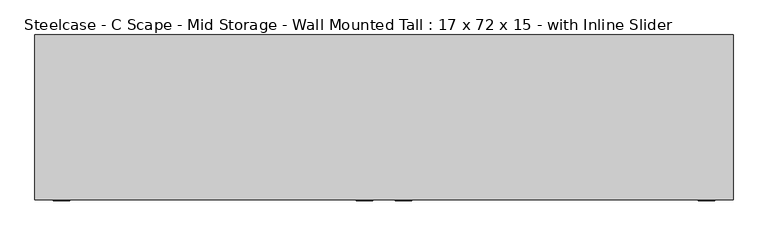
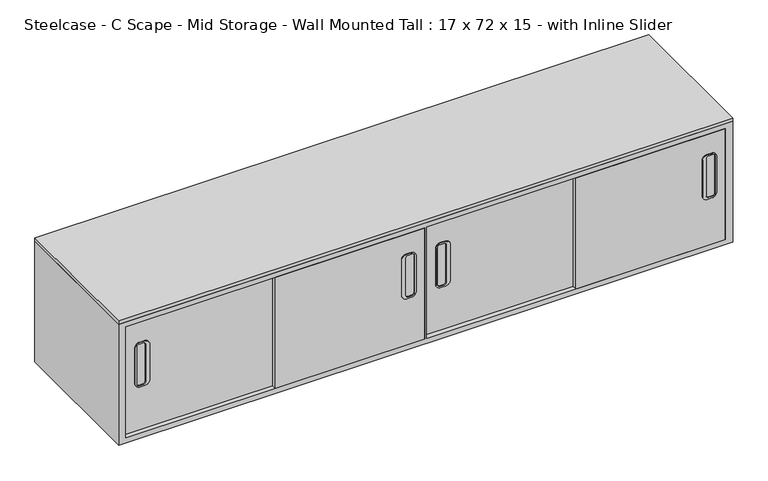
"""IFC4 building model written with IfcOpenShell, lengths in millimetres: furniture geometry, Steelcase - C Scape - Mid Storage - Wall Mounted Tall : 17 x 72 x 15 - with Inline Slider."""

from ifc_helpers import new_model, si_unit, point, frame, frame_2d, origin, place, context, project, spatial, polyline, circle_curve, trimmed, segment, composite_curve, outline, extrude, faceted_brep, source, transform, mapped, element, save


def steelcase_c_scape_mid_storage_wall_mounted_tall_17_x_72_x_15_89617dbc(model_context):
    return source(origin(), model_context, "Body", "SolidModel", [
        extrude(outline(polyline([(1828.8, 215.9), (1828.8, -215.9), (0.0, -215.9), (0.0, 215.9), (1828.8, 215.9)])), frame((0.0, 0.0, 1219.2), z_axis=(0.0, 0.0, 1.0), x_axis=(1.0, 0.0, 0.0)), (0.0, 0.0, 1.0), 10.16),
        extrude(outline(composite_curve([segment(trimmed(circle_curve(frame_2d((1127.3282327, 1766.4177615)), 13.716), [point((1127.3282327, 1780.1337615))], [point((1141.0442327, 1766.4177615))], False, "CARTESIAN"), True, "CONTINUOUS"), segment(polyline([(1141.0442327, 1766.4177615), (1141.0442327, 1751.4701355)]), True, "CONTINUOUS"), segment(trimmed(circle_curve(frame_2d((1127.4168582, 1751.4701355)), 13.6273746), [point((1141.0442327, 1751.4701355))], [point((1127.4168582, 1737.8427609))], False, "CARTESIAN"), True, "CONTINUOUS"), segment(polyline([(1127.4168582, 1737.8427609), (1015.0601843, 1737.8427609)]), True, "CONTINUOUS"), segment(trimmed(circle_curve(frame_2d((1015.0601843, 1751.5587609)), 13.716), [point((1015.0601843, 1737.8427609))], [point((1001.3441843, 1751.5587609))], False, "CARTESIAN"), True, "CONTINUOUS"), segment(polyline([(1001.3441843, 1751.5587609), (1001.3441843, 1766.4177615)]), True, "CONTINUOUS"), segment(trimmed(circle_curve(frame_2d((1015.0601843, 1766.4177615)), 13.716), [point((1001.3441843, 1766.4177615))], [point((1015.0601843, 1780.1337615))], False, "CARTESIAN"), True, "CONTINUOUS"), segment(polyline([(1015.0601843, 1780.1337615), (1127.3282327, 1780.1337615)]), True, "CONTINUOUS")], self_intersect=False), holes=[composite_curve([segment(trimmed(circle_curve(frame_2d((1012.5201979, 1768.9577615)), 6.35), [point((1012.5201979, 1775.3077615))], [point((1006.1701979, 1768.9577615))], True, "CARTESIAN"), True, "CONTINUOUS"), segment(polyline([(1006.1701979, 1768.9577615), (1006.1701979, 1756.2577676)]), True, "CONTINUOUS"), segment(trimmed(circle_curve(frame_2d((1012.5201979, 1756.2577676)), 6.35), [point((1006.1701979, 1756.2577676))], [point((1012.5201979, 1749.9077676))], True, "CARTESIAN"), True, "CONTINUOUS"), segment(polyline([(1012.5201979, 1749.9077676), (1129.8682192, 1749.9077676)]), True, "CONTINUOUS"), segment(trimmed(circle_curve(frame_2d((1129.8682192, 1756.2577676)), 6.35), [point((1129.8682192, 1749.9077676))], [point((1136.2182192, 1756.2577676))], True, "CARTESIAN"), True, "CONTINUOUS"), segment(polyline([(1136.2182192, 1756.2577676), (1136.2182192, 1768.9577615)]), True, "CONTINUOUS"), segment(trimmed(circle_curve(frame_2d((1129.8682192, 1768.9577615)), 6.35), [point((1136.2182192, 1768.9577615))], [point((1129.8682192, 1775.3077615))], True, "CARTESIAN"), True, "CONTINUOUS"), segment(polyline([(1129.8682192, 1775.3077615), (1012.5201979, 1775.3077615)]), True, "CONTINUOUS")], self_intersect=False)]), frame((0.0, -218.44, 0.0), z_axis=(0.0, 1.0, 0.0), x_axis=(0.0, 0.0, 1.0)), (0.0, 0.0, 1.0), 2.54),
        extrude(outline(composite_curve([segment(polyline([(1127.3282327, 944.1432385), (1015.0601843, 944.1432385)]), True, "CONTINUOUS"), segment(trimmed(circle_curve(frame_2d((1015.0601843, 957.8592385)), 13.716), [point((1015.0601843, 944.1432385))], [point((1001.3441843, 957.8592385))], False, "CARTESIAN"), True, "CONTINUOUS"), segment(polyline([(1001.3441843, 957.8592385), (1001.3441843, 972.7182391)]), True, "CONTINUOUS"), segment(trimmed(circle_curve(frame_2d((1015.0601843, 972.7182391)), 13.716), [point((1001.3441843, 972.7182391))], [point((1015.0601843, 986.4342391))], False, "CARTESIAN"), True, "CONTINUOUS"), segment(polyline([(1015.0601843, 986.4342391), (1127.4168582, 986.4342391)]), True, "CONTINUOUS"), segment(trimmed(circle_curve(frame_2d((1127.4168582, 972.8068645)), 13.6273746), [point((1127.4168582, 986.4342391))], [point((1141.0442327, 972.8068645))], False, "CARTESIAN"), True, "CONTINUOUS"), segment(polyline([(1141.0442327, 972.8068645), (1141.0442327, 957.8592385)]), True, "CONTINUOUS"), segment(trimmed(circle_curve(frame_2d((1127.3282327, 957.8592385)), 13.716), [point((1141.0442327, 957.8592385))], [point((1127.3282327, 944.1432385))], False, "CARTESIAN"), True, "CONTINUOUS")], self_intersect=False), holes=[composite_curve([segment(polyline([(1012.5201979, 948.9692385), (1129.8682192, 948.9692385)]), True, "CONTINUOUS"), segment(trimmed(circle_curve(frame_2d((1129.8682192, 955.3192385)), 6.35), [point((1129.8682192, 948.9692385))], [point((1136.2182192, 955.3192385))], True, "CARTESIAN"), True, "CONTINUOUS"), segment(polyline([(1136.2182192, 955.3192385), (1136.2182192, 968.0192324)]), True, "CONTINUOUS"), segment(trimmed(circle_curve(frame_2d((1129.8682192, 968.0192324)), 6.35), [point((1136.2182192, 968.0192324))], [point((1129.8682192, 974.3692324))], True, "CARTESIAN"), True, "CONTINUOUS"), segment(polyline([(1129.8682192, 974.3692324), (1012.5201979, 974.3692324)]), True, "CONTINUOUS"), segment(trimmed(circle_curve(frame_2d((1012.5201979, 968.0192324)), 6.35), [point((1012.5201979, 974.3692324))], [point((1006.1701979, 968.0192324))], True, "CARTESIAN"), True, "CONTINUOUS"), segment(polyline([(1006.1701979, 968.0192324), (1006.1701979, 955.3192385)]), True, "CONTINUOUS"), segment(trimmed(circle_curve(frame_2d((1012.5201979, 955.3192385)), 6.35), [point((1006.1701979, 955.3192385))], [point((1012.5201979, 948.9692385))], True, "CARTESIAN"), True, "CONTINUOUS")], self_intersect=False)]), frame((0.0, -218.44, 0.0), z_axis=(0.0, 1.0, 0.0), x_axis=(0.0, 0.0, 1.0)), (0.0, 0.0, 1.0), 2.54),
        extrude(outline(composite_curve([segment(trimmed(circle_curve(frame_2d((1127.3282327, 870.9407615)), 13.716), [point((1127.3282327, 884.6567615))], [point((1141.0442327, 870.9407615))], False, "CARTESIAN"), True, "CONTINUOUS"), segment(polyline([(1141.0442327, 870.9407615), (1141.0442327, 855.9931355)]), True, "CONTINUOUS"), segment(trimmed(circle_curve(frame_2d((1127.4168582, 855.9931355)), 13.6273746), [point((1141.0442327, 855.9931355))], [point((1127.4168582, 842.3657609))], False, "CARTESIAN"), True, "CONTINUOUS"), segment(polyline([(1127.4168582, 842.3657609), (1015.0601843, 842.3657609)]), True, "CONTINUOUS"), segment(trimmed(circle_curve(frame_2d((1015.0601843, 856.0817609)), 13.716), [point((1015.0601843, 842.3657609))], [point((1001.3441843, 856.0817609))], False, "CARTESIAN"), True, "CONTINUOUS"), segment(polyline([(1001.3441843, 856.0817609), (1001.3441843, 870.9407615)]), True, "CONTINUOUS"), segment(trimmed(circle_curve(frame_2d((1015.0601843, 870.9407615)), 13.716), [point((1001.3441843, 870.9407615))], [point((1015.0601843, 884.6567615))], False, "CARTESIAN"), True, "CONTINUOUS"), segment(polyline([(1015.0601843, 884.6567615), (1127.3282327, 884.6567615)]), True, "CONTINUOUS")], self_intersect=False), holes=[composite_curve([segment(trimmed(circle_curve(frame_2d((1012.5201979, 873.4807615)), 6.35), [point((1012.5201979, 879.8307615))], [point((1006.1701979, 873.4807615))], True, "CARTESIAN"), True, "CONTINUOUS"), segment(polyline([(1006.1701979, 873.4807615), (1006.1701979, 860.7807676)]), True, "CONTINUOUS"), segment(trimmed(circle_curve(frame_2d((1012.5201979, 860.7807676)), 6.35), [point((1006.1701979, 860.7807676))], [point((1012.5201979, 854.4307676))], True, "CARTESIAN"), True, "CONTINUOUS"), segment(polyline([(1012.5201979, 854.4307676), (1129.8682192, 854.4307676)]), True, "CONTINUOUS"), segment(trimmed(circle_curve(frame_2d((1129.8682192, 860.7807676)), 6.35), [point((1129.8682192, 854.4307676))], [point((1136.2182192, 860.7807676))], True, "CARTESIAN"), True, "CONTINUOUS"), segment(polyline([(1136.2182192, 860.7807676), (1136.2182192, 873.4807615)]), True, "CONTINUOUS"), segment(trimmed(circle_curve(frame_2d((1129.8682192, 873.4807615)), 6.35), [point((1136.2182192, 873.4807615))], [point((1129.8682192, 879.8307615))], True, "CARTESIAN"), True, "CONTINUOUS"), segment(polyline([(1129.8682192, 879.8307615), (1012.5201979, 879.8307615)]), True, "CONTINUOUS")], self_intersect=False)]), frame((0.0, -218.44, 0.0), z_axis=(0.0, 1.0, 0.0), x_axis=(0.0, 0.0, 1.0)), (0.0, 0.0, 1.0), 2.54),
        extrude(outline(composite_curve([segment(polyline([(1127.3282327, 48.5394019), (1015.0601843, 48.5394019)]), True, "CONTINUOUS"), segment(trimmed(circle_curve(frame_2d((1015.0601843, 62.2554019)), 13.716), [point((1015.0601843, 48.5394019))], [point((1001.3441843, 62.2554019))], False, "CARTESIAN"), True, "CONTINUOUS"), segment(polyline([(1001.3441843, 62.2554019), (1001.3441843, 77.1144024)]), True, "CONTINUOUS"), segment(trimmed(circle_curve(frame_2d((1015.0601843, 77.1144024)), 13.716), [point((1001.3441843, 77.1144024))], [point((1015.0601843, 90.8304024))], False, "CARTESIAN"), True, "CONTINUOUS"), segment(polyline([(1015.0601843, 90.8304024), (1127.4168582, 90.8304024)]), True, "CONTINUOUS"), segment(trimmed(circle_curve(frame_2d((1127.4168582, 77.2030278)), 13.6273746), [point((1127.4168582, 90.8304024))], [point((1141.0442327, 77.2030278))], False, "CARTESIAN"), True, "CONTINUOUS"), segment(polyline([(1141.0442327, 77.2030278), (1141.0442327, 62.2554019)]), True, "CONTINUOUS"), segment(trimmed(circle_curve(frame_2d((1127.3282327, 62.2554019)), 13.716), [point((1141.0442327, 62.2554019))], [point((1127.3282327, 48.5394019))], False, "CARTESIAN"), True, "CONTINUOUS")], self_intersect=False), holes=[composite_curve([segment(polyline([(1012.5201979, 53.3654018), (1129.8682192, 53.3654018)]), True, "CONTINUOUS"), segment(trimmed(circle_curve(frame_2d((1129.8682192, 59.7154018)), 6.35), [point((1129.8682192, 53.3654018))], [point((1136.2182192, 59.7154018))], True, "CARTESIAN"), True, "CONTINUOUS"), segment(polyline([(1136.2182192, 59.7154018), (1136.2182192, 72.4153957)]), True, "CONTINUOUS"), segment(trimmed(circle_curve(frame_2d((1129.8682192, 72.4153957)), 6.35), [point((1136.2182192, 72.4153957))], [point((1129.8682192, 78.7653957))], True, "CARTESIAN"), True, "CONTINUOUS"), segment(polyline([(1129.8682192, 78.7653957), (1012.5201979, 78.7653957)]), True, "CONTINUOUS"), segment(trimmed(circle_curve(frame_2d((1012.5201979, 72.4153957)), 6.35), [point((1012.5201979, 78.7653957))], [point((1006.1701979, 72.4153957))], True, "CARTESIAN"), True, "CONTINUOUS"), segment(polyline([(1006.1701979, 72.4153957), (1006.1701979, 59.7154018)]), True, "CONTINUOUS"), segment(trimmed(circle_curve(frame_2d((1012.5201979, 59.7154018)), 6.35), [point((1006.1701979, 59.7154018))], [point((1012.5201979, 53.3654018))], True, "CARTESIAN"), True, "CONTINUOUS")], self_intersect=False)]), frame((0.0, -218.44, 0.0), z_axis=(0.0, 1.0, 0.0), x_axis=(0.0, 0.0, 1.0)), (0.0, 0.0, 1.0), 2.54),
        extrude(outline(polyline([(466.5980817, -201.5235519), (21.9711633, -201.5235519), (21.9711633, -187.1471039), (466.5980817, -187.1471039), (466.5980817, -201.5235519)])), frame((0.0, 0.0, 853.4399855), z_axis=(0.0, 0.0, 1.0), x_axis=(1.0, 0.0, 0.0)), (0.0, 0.0, 1.0), 350.5200145),
        extrude(outline(polyline([(911.225, -215.9), (466.5980817, -215.9), (466.5980817, -201.5235519), (911.225, -201.5235519), (911.225, -215.9)])), frame((0.0, 0.0, 853.4399855), z_axis=(0.0, 0.0, 1.0), x_axis=(1.0, 0.0, 0.0)), (0.0, 0.0, 1.0), 350.5200145),
        extrude(outline(polyline([(1806.702, -215.9), (1362.1385, -215.9), (1362.1385, -201.5235519), (1806.702, -201.5235519), (1806.702, -215.9)])), frame((0.0, 0.0, 853.4399855), z_axis=(0.0, 0.0, 1.0), x_axis=(1.0, 0.0, 0.0)), (0.0, 0.0, 1.0), 350.5200145),
        extrude(outline(polyline([(1362.1385, -201.5235519), (917.575, -201.5235519), (917.575, -187.1471039), (1362.1385, -187.1471039), (1362.1385, -201.5235519)])), frame((0.0, 0.0, 853.4399855), z_axis=(0.0, 0.0, 1.0), x_axis=(1.0, 0.0, 0.0)), (0.0, 0.0, 1.0), 350.5200145),
        faceted_brep([(0.0, -215.9, 1219.2), (0.0, -215.9, 838.2), (1828.8, -215.9, 838.2), (1828.8, -215.9, 1219.2), (21.9711633, -215.9, 1203.96), (911.225, -215.9, 1203.96), (911.225, -215.9, 853.4399855), (21.9711633, -215.9, 853.4399855), (1806.702, -215.9, 1203.96), (1806.702, -215.9, 853.4399855), (917.575, -215.9, 853.4399855), (917.575, -215.9, 1203.96), (1828.8, 215.9, 1219.2), (1828.8, 215.9, 838.2), (0.0, 215.9, 838.2), (0.0, 215.9, 1219.2), (1806.702, 206.3755809, 1203.96), (1806.702, 206.3755809, 853.4399855), (911.225, 206.3755809, 853.4399855), (21.9711633, 206.3755809, 853.4399855), (917.575, 206.3755809, 853.4399855), (21.9711633, 206.3755809, 1203.96), (911.225, 206.3755809, 1203.96), (917.575, 206.3755809, 1203.96)], [[[0, 1, 2, 3], [4, 5, 6, 7], [8, 9, 10, 11]], [[12, 13, 14, 15]], [[0, 3, 12, 15]], [[1, 0, 15, 14]], [[2, 1, 14, 13]], [[3, 2, 13, 12]], [[9, 8, 16, 17]], [[7, 6, 18, 19]], [[10, 9, 17, 20]], [[4, 7, 19, 21]], [[5, 4, 21, 22]], [[8, 11, 23, 16]], [[18, 22, 21, 19]], [[6, 5, 22, 18]], [[11, 10, 20, 23]], [[23, 20, 17, 16]]]),
    ])


if __name__ == "__main__":
    model = new_model("IFC4")
    model_context = context("Model", 3, world=origin())
    ifc_project = project(units=[si_unit("LENGTHUNIT", "METRE", prefix="MILLI")], contexts=[model_context])
    site = spatial("IfcSite", under=ifc_project)
    building = spatial("IfcBuilding", under=site)
    placement = place(None, origin())
    steelcase_c_scape_mid_storage_wall_mounted_tall_17_x_72_x_15_shape = steelcase_c_scape_mid_storage_wall_mounted_tall_17_x_72_x_15_89617dbc(model_context)
    element("IfcFurniture", 1, ObjectType="Steelcase - C Scape - Mid Storage - Wall Mounted Tall : 17 x 72 x 15 - with Inline Slider", at=placement, inside=building, context=model_context, shape_type="MappedRepresentation", body=[
        mapped(steelcase_c_scape_mid_storage_wall_mounted_tall_17_x_72_x_15_shape, transform((0.0, 0.0, 0.0), x_axis=(1.0, 0.0, 0.0), y_axis=(0.0, 1.0, 0.0), z_axis=(0.0, 0.0, 1.0))),
    ])
    save(model, "model.ifc")
